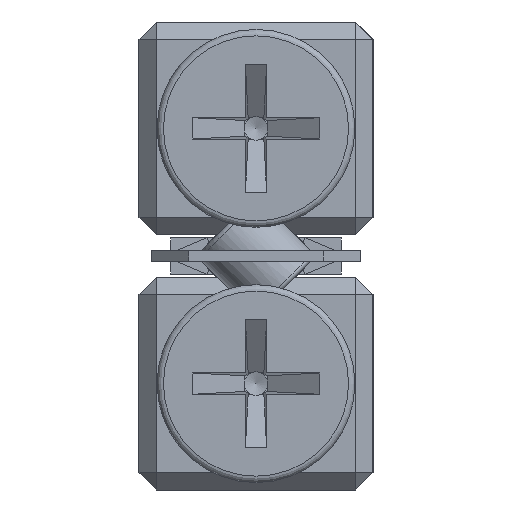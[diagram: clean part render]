
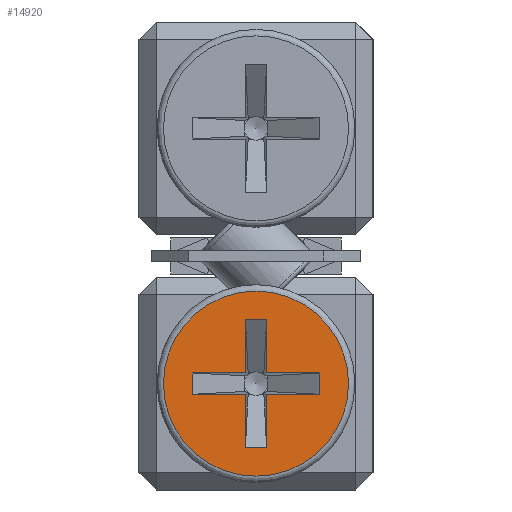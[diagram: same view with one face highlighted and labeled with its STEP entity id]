
A CAD part, left-side view. The second image highlights one B-rep face of the part: STEP entity #14920.
In plain terms, the highlighted planar face has unit normal (-1, 0, 0).
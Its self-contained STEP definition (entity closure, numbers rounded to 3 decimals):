
#146 = CARTESIAN_POINT ( 'NONE',  ( -122., 0.5, 2. ) ) ;
#150 = LINE ( 'NONE', #11482, #202 ) ;
#202 = VECTOR ( 'NONE', #7621, 1000. ) ;
#398 = ORIENTED_EDGE ( 'NONE', *, *, #15154, .T. ) ;
#487 = CIRCLE ( 'NONE', #8546, 4.35 ) ;
#576 = EDGE_CURVE ( 'NONE', #10774, #5433, #150, .T. ) ;
#629 = CARTESIAN_POINT ( 'NONE',  ( -122., 3., 5.5 ) ) ;
#655 = ORIENTED_EDGE ( 'NONE', *, *, #4768, .F. ) ;
#963 = VECTOR ( 'NONE', #9077, 1000. ) ;
#1021 = ORIENTED_EDGE ( 'NONE', *, *, #10023, .T. ) ;
#1177 = VECTOR ( 'NONE', #2163, 1000. ) ;
#1230 = VERTEX_POINT ( 'NONE', #6000 ) ;
#1346 = CARTESIAN_POINT ( 'NONE',  ( -122., 0.5, 4.5 ) ) ;
#1390 = CARTESIAN_POINT ( 'NONE',  ( -122., 0.5, 2. ) ) ;
#1759 = VECTOR ( 'NONE', #9124, 1000. ) ;
#2003 = ORIENTED_EDGE ( 'NONE', *, *, #4555, .F. ) ;
#2163 = DIRECTION ( 'NONE',  ( 0., 1., 0. ) ) ;
#2265 = CARTESIAN_POINT ( 'NONE',  ( -122., -3., 5.5 ) ) ;
#2433 = LINE ( 'NONE', #11501, #13296 ) ;
#2463 = VERTEX_POINT ( 'NONE', #6615 ) ;
#2699 = VERTEX_POINT ( 'NONE', #12868 ) ;
#2786 = CARTESIAN_POINT ( 'NONE',  ( -122., 0., 5. ) ) ;
#2793 = VERTEX_POINT ( 'NONE', #9436 ) ;
#3256 = EDGE_CURVE ( 'NONE', #12216, #8360, #10673, .T. ) ;
#4174 = ORIENTED_EDGE ( 'NONE', *, *, #12481, .F. ) ;
#4437 = FACE_BOUND ( 'NONE', #4666, .T. ) ;
#4491 = ORIENTED_EDGE ( 'NONE', *, *, #16614, .T. ) ;
#4555 = EDGE_CURVE ( 'NONE', #12607, #2699, #2433, .T. ) ;
#4611 = CARTESIAN_POINT ( 'NONE',  ( -122., -0.5, 8. ) ) ;
#4666 = EDGE_LOOP ( 'NONE', ( #13217, #4174, #398, #12253, #13582, #7979, #14593, #655, #4491, #1021, #2003, #11171 ) ) ;
#4768 = EDGE_CURVE ( 'NONE', #2793, #5433, #5465, .T. ) ;
#5032 = CARTESIAN_POINT ( 'NONE',  ( -122., 3., 5.5 ) ) ;
#5040 = EDGE_CURVE ( 'NONE', #10957, #10957, #487, .T. ) ;
#5078 = EDGE_CURVE ( 'NONE', #1230, #8360, #9506, .T. ) ;
#5274 = DIRECTION ( 'NONE',  ( 0., 0., 1. ) ) ;
#5323 = VERTEX_POINT ( 'NONE', #11266 ) ;
#5433 = VERTEX_POINT ( 'NONE', #15616 ) ;
#5465 = LINE ( 'NONE', #9156, #963 ) ;
#5637 = VERTEX_POINT ( 'NONE', #6374 ) ;
#6000 = CARTESIAN_POINT ( 'NONE',  ( -122., -3., 4.5 ) ) ;
#6374 = CARTESIAN_POINT ( 'NONE',  ( -122., 0.5, 8. ) ) ;
#6457 = VECTOR ( 'NONE', #14116, 1000. ) ;
#6588 = ORIENTED_EDGE ( 'NONE', *, *, #5040, .T. ) ;
#6615 = CARTESIAN_POINT ( 'NONE',  ( -122., -0.5, 8. ) ) ;
#6714 = CARTESIAN_POINT ( 'NONE',  ( -122., 4.65, 5. ) ) ;
#6934 = LINE ( 'NONE', #146, #14266 ) ;
#7011 = VECTOR ( 'NONE', #13141, 1000. ) ;
#7621 = DIRECTION ( 'NONE',  ( 0., 0., -1. ) ) ;
#7979 = ORIENTED_EDGE ( 'NONE', *, *, #15200, .T. ) ;
#8057 = DIRECTION ( 'NONE',  ( 1., 0., 0. ) ) ;
#8360 = VERTEX_POINT ( 'NONE', #2265 ) ;
#8391 = LINE ( 'NONE', #4611, #13210 ) ;
#8407 = VECTOR ( 'NONE', #14651, 1000. ) ;
#8521 = EDGE_CURVE ( 'NONE', #5323, #5637, #12888, .T. ) ;
#8546 = AXIS2_PLACEMENT_3D ( 'NONE', #2786, #10356, #13194 ) ;
#8645 = CARTESIAN_POINT ( 'NONE',  ( -122., -3., 4.5 ) ) ;
#8961 = DIRECTION ( 'NONE',  ( 0., 1., 0. ) ) ;
#9077 = DIRECTION ( 'NONE',  ( 0., -1., 0. ) ) ;
#9124 = DIRECTION ( 'NONE',  ( 0., 0., -1. ) ) ;
#9156 = CARTESIAN_POINT ( 'NONE',  ( -122., 0.5, 2. ) ) ;
#9436 = CARTESIAN_POINT ( 'NONE',  ( -122., 0.5, 2. ) ) ;
#9506 = LINE ( 'NONE', #11004, #12818 ) ;
#9734 = DIRECTION ( 'NONE',  ( 0., 1., 0. ) ) ;
#10023 = EDGE_CURVE ( 'NONE', #16186, #2699, #12569, .T. ) ;
#10170 = DIRECTION ( 'NONE',  ( 0., 0., -1. ) ) ;
#10356 = DIRECTION ( 'NONE',  ( -1., 0., 0. ) ) ;
#10673 = LINE ( 'NONE', #15782, #6457 ) ;
#10774 = VERTEX_POINT ( 'NONE', #12445 ) ;
#10957 = VERTEX_POINT ( 'NONE', #12116 ) ;
#10963 = LINE ( 'NONE', #629, #8407 ) ;
#11004 = CARTESIAN_POINT ( 'NONE',  ( -122., -3., 4.5 ) ) ;
#11171 = ORIENTED_EDGE ( 'NONE', *, *, #12832, .T. ) ;
#11266 = CARTESIAN_POINT ( 'NONE',  ( -122., 0.5, 5.5 ) ) ;
#11482 = CARTESIAN_POINT ( 'NONE',  ( -122., -0.5, 8. ) ) ;
#11501 = CARTESIAN_POINT ( 'NONE',  ( -122., 3., 5.5 ) ) ;
#11631 = LINE ( 'NONE', #15497, #1759 ) ;
#12012 = CARTESIAN_POINT ( 'NONE',  ( -122., -0.5, 5.5 ) ) ;
#12116 = CARTESIAN_POINT ( 'NONE',  ( -122., 0., 0.65 ) ) ;
#12216 = VERTEX_POINT ( 'NONE', #12012 ) ;
#12253 = ORIENTED_EDGE ( 'NONE', *, *, #3256, .T. ) ;
#12337 = DIRECTION ( 'NONE',  ( 0., 0., 1. ) ) ;
#12445 = CARTESIAN_POINT ( 'NONE',  ( -122., -0.5, 4.5 ) ) ;
#12467 = VECTOR ( 'NONE', #8961, 1000. ) ;
#12481 = EDGE_CURVE ( 'NONE', #2463, #5637, #8391, .T. ) ;
#12569 = LINE ( 'NONE', #8645, #1177 ) ;
#12607 = VERTEX_POINT ( 'NONE', #5032 ) ;
#12818 = VECTOR ( 'NONE', #12337, 1000. ) ;
#12832 = EDGE_CURVE ( 'NONE', #12607, #5323, #10963, .T. ) ;
#12868 = CARTESIAN_POINT ( 'NONE',  ( -122., 3., 4.5 ) ) ;
#12888 = LINE ( 'NONE', #1390, #7011 ) ;
#13141 = DIRECTION ( 'NONE',  ( 0., 0., 1. ) ) ;
#13161 = DIRECTION ( 'NONE',  ( 0., 0., -1. ) ) ;
#13194 = DIRECTION ( 'NONE',  ( 0., 0., -1. ) ) ;
#13210 = VECTOR ( 'NONE', #9734, 1000. ) ;
#13217 = ORIENTED_EDGE ( 'NONE', *, *, #8521, .T. ) ;
#13296 = VECTOR ( 'NONE', #10170, 1000. ) ;
#13542 = EDGE_LOOP ( 'NONE', ( #6588 ) ) ;
#13582 = ORIENTED_EDGE ( 'NONE', *, *, #5078, .F. ) ;
#13987 = CARTESIAN_POINT ( 'NONE',  ( -122., -3., 4.5 ) ) ;
#14080 = AXIS2_PLACEMENT_3D ( 'NONE', #6714, #8057, #13161 ) ;
#14116 = DIRECTION ( 'NONE',  ( 0., -1., 0. ) ) ;
#14266 = VECTOR ( 'NONE', #5274, 1000. ) ;
#14341 = PLANE ( 'NONE',  #14080 ) ;
#14593 = ORIENTED_EDGE ( 'NONE', *, *, #576, .T. ) ;
#14651 = DIRECTION ( 'NONE',  ( 0., -1., 0. ) ) ;
#14920 = ADVANCED_FACE ( 'NONE', ( #15919, #4437 ), #14341, .F. ) ;
#15154 = EDGE_CURVE ( 'NONE', #2463, #12216, #11631, .T. ) ;
#15200 = EDGE_CURVE ( 'NONE', #1230, #10774, #16423, .T. ) ;
#15497 = CARTESIAN_POINT ( 'NONE',  ( -122., -0.5, 8. ) ) ;
#15616 = CARTESIAN_POINT ( 'NONE',  ( -122., -0.5, 2. ) ) ;
#15782 = CARTESIAN_POINT ( 'NONE',  ( -122., 3., 5.5 ) ) ;
#15919 = FACE_OUTER_BOUND ( 'NONE', #13542, .T. ) ;
#16186 = VERTEX_POINT ( 'NONE', #1346 ) ;
#16423 = LINE ( 'NONE', #13987, #12467 ) ;
#16614 = EDGE_CURVE ( 'NONE', #2793, #16186, #6934, .T. ) ;
